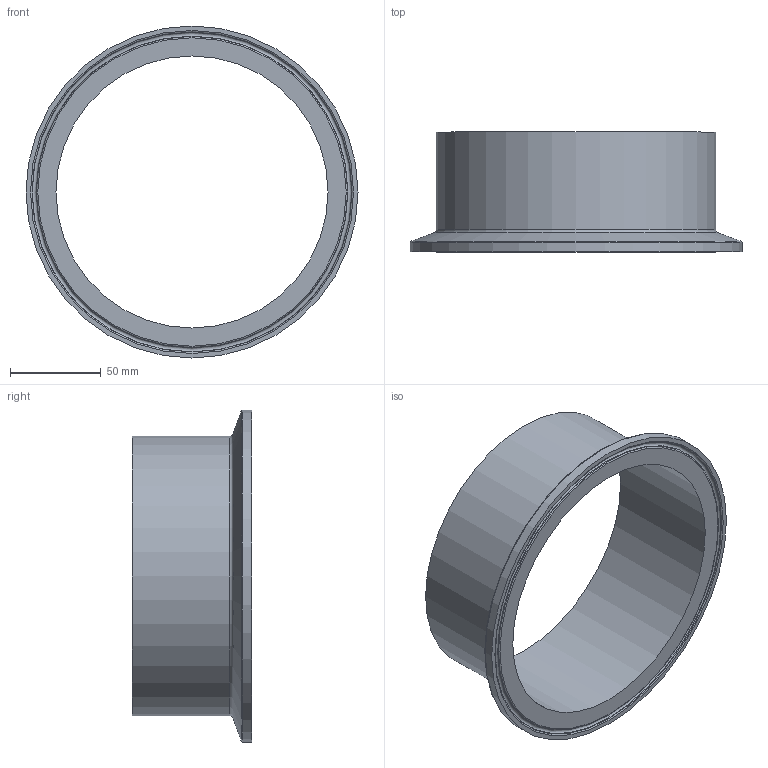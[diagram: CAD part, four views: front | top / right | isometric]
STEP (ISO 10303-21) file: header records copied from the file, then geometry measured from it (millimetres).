
FILE_DESCRIPTION(('Ferrule_154x2_L66_FL183_V02'),'2;1');
FILE_NAME('Ferrule_154x2_L66_FL183_V02.stp','2013-11-03T12:53:39',('DOCKWEILER AG'),('DOCKWEILER AG'),'Autodesk Inventor 2012','Autodesk Inventor 2012','');
FILE_SCHEMA(('CONFIG_CONTROL_DESIGN'));
Length unit declared in the file: millimetre
Products named in the file (1): N0003_003_001
Bounding box: 183 x 66 x 183 mm (x, y, z)
Volume: 123915.2 mm3; surface area: 79310.1 mm2
Topology: 1 solids, 1 shells, 14 faces, 25 edges, 14 vertices
Faces by surface type: torus 5, plane 3, cylinder 3, cone 3
Full cylindrical faces by diameter (mm): 150 x1, 154 x1, 183 x1
Entity records: 314 total; most frequent: DIRECTION 58, CARTESIAN_POINT 43, AXIS2_PLACEMENT_3D 29, ORIENTED_EDGE 28, EDGE_LOOP 28, VERTEX_POINT 14, CIRCLE 14, EDGE_CURVE 14
